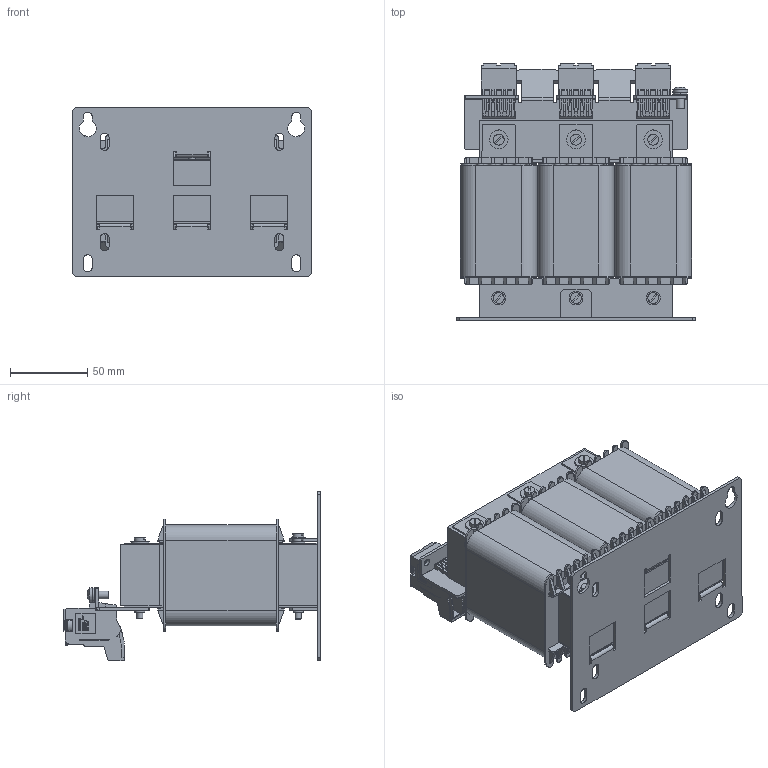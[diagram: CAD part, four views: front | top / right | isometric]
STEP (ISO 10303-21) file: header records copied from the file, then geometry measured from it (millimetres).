
FILE_DESCRIPTION (( 'STEP AP214' ), '1' );
FILE_NAME ('PCT-035.STEP', '2015-04-28T10:48:31', ( 'EDV' ), ( 'Microsoft' ), 'SwSTEP 2.0', 'SolidWorks 2014', '' );
FILE_SCHEMA (( 'AUTOMOTIVE_DESIGN' ));
Length unit declared in the file: millimetre
Products named in the file (14): BTK 10_2 +2202-0024; #080-0545_neu 220508; #040-0875; PCT-035; pan head cross recess screw_din_ISO 7045 - M5 x 10 - Z --- 10N; curved spring lock washer_din_Spring washer DIN 128 - A5; plain washer grade a_din_Washer DIN 125 - A 5.3; M4x50-DIN84; plain washer grade a_din_Washer DIN 125 - A 4.3; plain washer large_din_Washer DIN 9021 - 4.3; Wickel 3UI 75_41,5; 3UI75-41,5 Lp 2,5; UI75-41,5oD; #144-0147
Assembly tree (29 placements, depth 2):
  PCT-035
    #040-0875
    #080-0545_neu 220508
    BTK 10_2 +2202-0024  x3
    #144-0147  x2
    UI75-41,5oD  x3
    3UI75-41,5 Lp 2,5
    Wickel 3UI 75_41,5  x3
    plain washer large_din_Washer DIN 9021 - 4.3  x3
    plain washer grade a_din_Washer DIN 125 - A 4.3  x3
    M4x50-DIN84  x6
    plain washer grade a_din_Washer DIN 125 - A 5.3
    curved spring lock washer_din_Spring washer DIN 128 - A5
    pan head cross recess screw_din_ISO 7045 - M5 x 10 - Z --- 10N
Bounding box: 155 x 166.5 x 110 mm (x, y, z)
Volume: 1065585.5 mm3; surface area: 393131.8 mm2
Topology: 31 solids, 31 shells, 7626 faces, 21163 edges, 13741 vertices
Faces by surface type: plane 6114, cylinder 1105, bspline 343, torus 52, cone 11, sphere 1
Full cylindrical faces by diameter (mm): 2.779 x1, 3.7 x6, 4 x6, 4.3 x6, 4.6 x2, 5 x1, 5.3 x1, 5.4 x6, 5.5 x7, 6.5 x6, 6.95 x1, 7 x6, 7.15 x1, 9 x3, 9.5 x1, 10 x1, 12 x3
Entity records: 109849 total; most frequent: CARTESIAN_POINT 27835, ORIENTED_EDGE 17080, DIRECTION 14680, EDGE_CURVE 8540, VECTOR 7284, LINE 7284, VERTEX_POINT 5580, AXIS2_PLACEMENT_3D 3698
